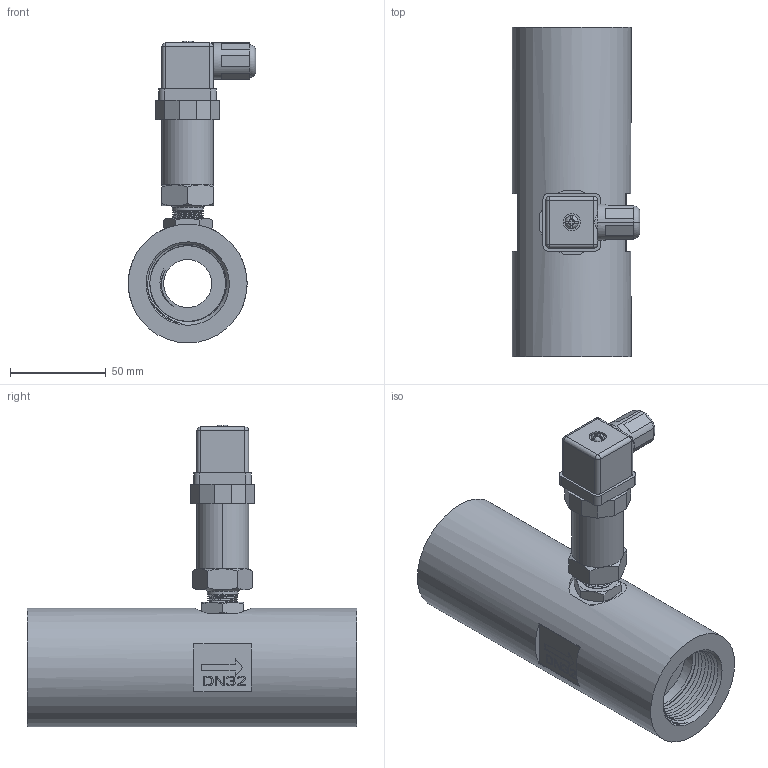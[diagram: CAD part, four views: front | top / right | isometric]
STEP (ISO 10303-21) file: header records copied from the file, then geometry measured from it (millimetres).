
FILE_DESCRIPTION( (''), '2;1');
FILE_NAME( 'QTKB_DN32_female-thread_DIN-plug.step', '2024-10-14T08:18:29+08:00', (''), (''), '', '', '');
FILE_SCHEMA (('AUTOMOTIVE_DESIGN { 1 0 10303 214 3 1 1 1 }'));
Length unit declared in the file: millimetre
Products named in the file (1): QTKB DN32_female-thread_DIN-plug
Bounding box: 66.5 x 172 x 157.5 mm (x, y, z)
Volume: 454812 mm3; surface area: 80016.4 mm2
Topology: 5 solids, 6 shells, 525 faces, 1419 edges, 931 vertices
Faces by surface type: plane 386, cylinder 57, cone 38, bspline 36, torus 4, sphere 4
Full cylindrical faces by diameter (mm): 15 x1, 25 x1, 39.5 x2, 62 x1
Entity records: 20759 total; most frequent: CARTESIAN_POINT 7914, ORIENTED_EDGE 2796, DIRECTION 2365, EDGE_CURVE 1398, LINE 1031, VECTOR 1031, VERTEX_POINT 923, AXIS2_PLACEMENT_3D 667
